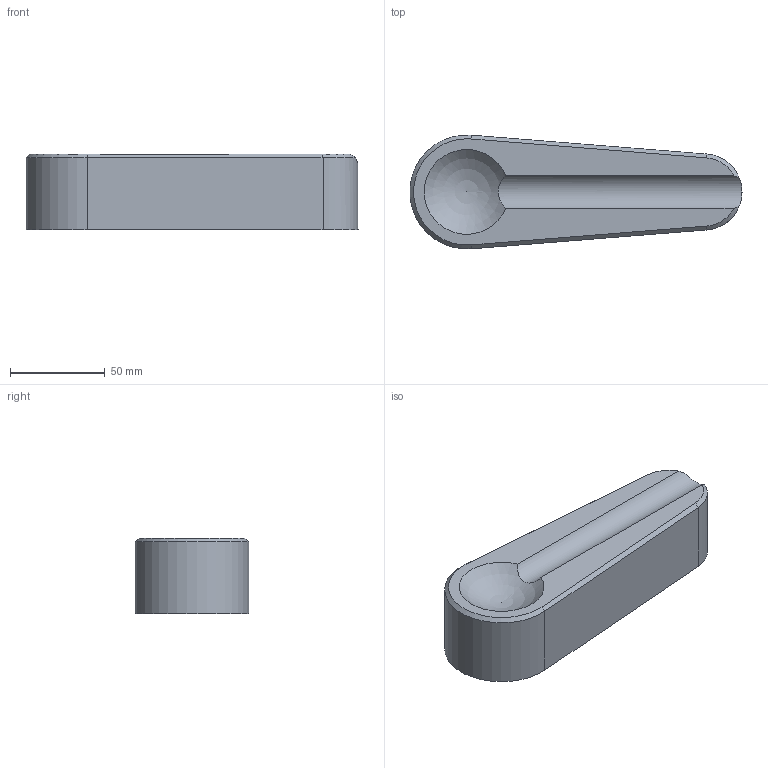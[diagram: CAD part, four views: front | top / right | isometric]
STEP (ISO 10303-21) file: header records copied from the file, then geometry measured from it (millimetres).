
FILE_DESCRIPTION(/* description */ (''),/* implementation_level */ '2;1');
FILE_NAME(/* name */ 'C:/Users/ALL/OneDrive/BCKDocs/Dell2012/EDocs/Temp/Ascher1 v9.step',/* time_stamp */ '2017-07-20T16:14:26+02:00',/* author */ (''),/* organization */ (''),/* preprocessor_version */ 'ST-DEVELOPER v16.13',/* originating_system */ 'Autodesk Translation Framework v6.1.1.50',/* authorisation */ '');
FILE_SCHEMA (('AUTOMOTIVE_DESIGN { 1 0 10303 214 3 1 1 }'));
Length unit declared in the file: millimetre
Products named in the file (1): Ascher1 v9
Bounding box: 174.92 x 59.81 x 40 mm (x, y, z)
Volume: 315918.5 mm3; surface area: 33168.1 mm2
Topology: 1 solids, 1 shells, 13 faces, 32 edges, 20 vertices
Faces by surface type: plane 6, cylinder 3, cone 3, sphere 1
Entity records: 410 total; most frequent: CARTESIAN_POINT 97, DIRECTION 62, ORIENTED_EDGE 58, EDGE_CURVE 29, AXIS2_PLACEMENT_3D 23, VERTEX_POINT 18, LINE 16, VECTOR 16
